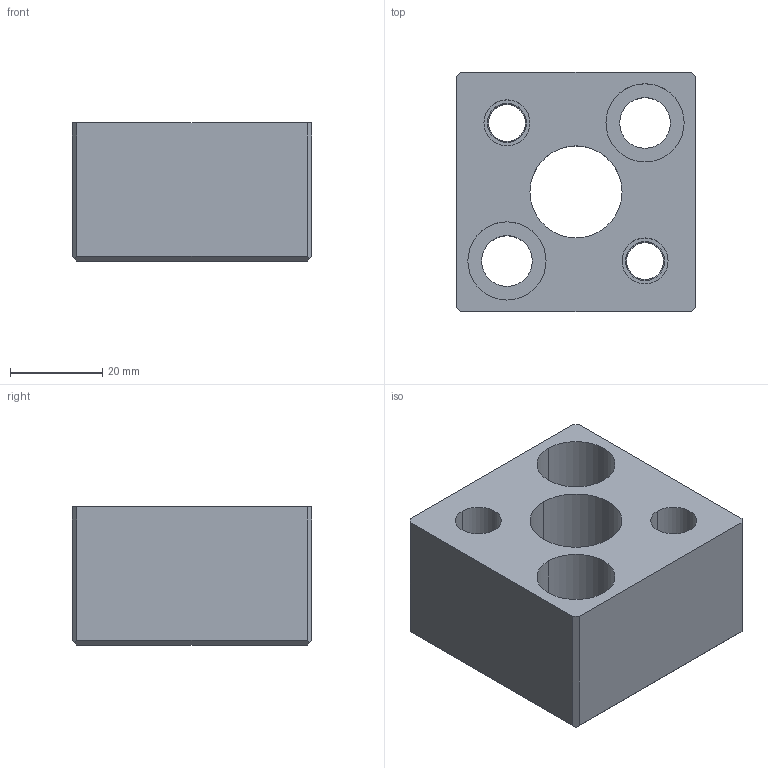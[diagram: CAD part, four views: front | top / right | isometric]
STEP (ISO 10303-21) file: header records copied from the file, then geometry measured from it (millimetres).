
FILE_DESCRIPTION(/* description */ (''),/* implementation_level */ '2;1');
FILE_NAME(/* name */ '3d_sr-fn20_05482_r00.stp',/* time_stamp */ '2011-01-10T14:09:58+09:00',/* author */ ('MISUMI'),/* organization */ (''),/* preprocessor_version */ 'ST-DEVELOPER v11',/* originating_system */ 'UGS - NX 5.0',/* authorisation */ '');
FILE_SCHEMA (('CONFIG_CONTROL_DESIGN'));
Length unit declared in the file: millimetre
Products named in the file (1): 3d_sr-fn20_05482_r00
Bounding box: 52 x 52 x 30 mm (x, y, z)
Volume: 58204.4 mm3; surface area: 16401.4 mm2
Topology: 1 solids, 1 shells, 47 faces, 116 edges, 77 vertices
Faces by surface type: cylinder 23, plane 22, cone 2
Entity records: 1518 total; most frequent: DIRECTION 260, CARTESIAN_POINT 244, ORIENTED_EDGE 232, EDGE_CURVE 116, AXIS2_PLACEMENT_3D 97, VERTEX_POINT 77, LINE 66, VECTOR 66
